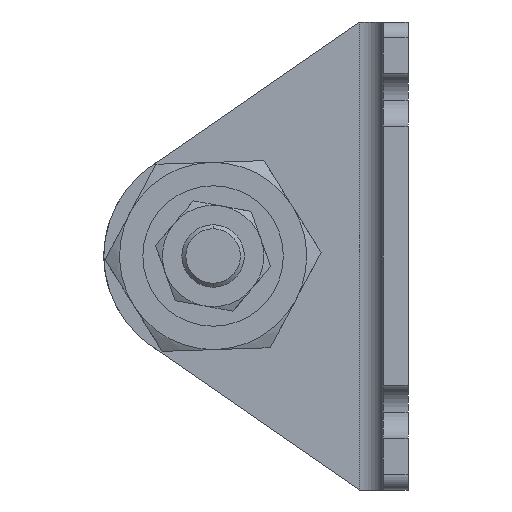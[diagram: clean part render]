
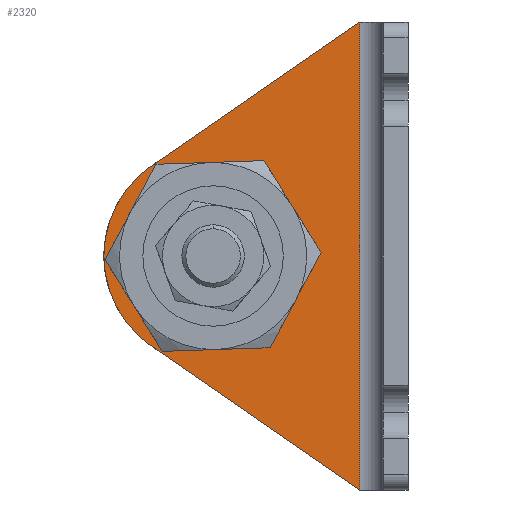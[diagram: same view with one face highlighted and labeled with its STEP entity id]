
A CAD part, left-side view. The second image highlights one B-rep face of the part: STEP entity #2320.
In plain terms, the highlighted planar face has unit normal (-1, 0, 0) as drawn and (1, 0, 0) by its records, which use the part's own axes.
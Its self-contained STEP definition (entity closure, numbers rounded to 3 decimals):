
#67 = CARTESIAN_POINT ( 'NONE',  ( 3.2, 39., -30. ) ) ;
#90 = VERTEX_POINT ( 'NONE', #3815 ) ;
#97 = DIRECTION ( 'NONE',  ( 1., 0., 0. ) ) ;
#206 = DIRECTION ( 'NONE',  ( 0., 1., 0. ) ) ;
#284 = LINE ( 'NONE', #3176, #2062 ) ;
#297 = DIRECTION ( 'NONE',  ( 0., 0.823, 0.568 ) ) ;
#392 = CARTESIAN_POINT ( 'NONE',  ( 3.2, 25., -30. ) ) ;
#440 = EDGE_CURVE ( 'NONE', #3388, #1788, #2147, .T. ) ;
#580 = LINE ( 'NONE', #2693, #879 ) ;
#589 = DIRECTION ( 'NONE',  ( 1., 0., 0. ) ) ;
#694 = EDGE_CURVE ( 'NONE', #1788, #3215, #3348, .T. ) ;
#697 = LINE ( 'NONE', #3914, #2595 ) ;
#723 = DIRECTION ( 'NONE',  ( 0., 0.823, -0.568 ) ) ;
#744 = CARTESIAN_POINT ( 'NONE',  ( 3.2, 6.2, -60. ) ) ;
#782 = ORIENTED_EDGE ( 'NONE', *, *, #1077, .F. ) ;
#831 = AXIS2_PLACEMENT_3D ( 'NONE', #392, #2770, #206 ) ;
#879 = VECTOR ( 'NONE', #723, 1000. ) ;
#897 = ORIENTED_EDGE ( 'NONE', *, *, #3693, .F. ) ;
#982 = EDGE_LOOP ( 'NONE', ( #782, #897 ) ) ;
#984 = AXIS2_PLACEMENT_3D ( 'NONE', #1701, #2347, #2367 ) ;
#1004 = CARTESIAN_POINT ( 'NONE',  ( 3.2, 3.2, -60. ) ) ;
#1071 = DIRECTION ( 'NONE',  ( 0., 1., 0. ) ) ;
#1077 = EDGE_CURVE ( 'NONE', #4042, #90, #2146, .T. ) ;
#1081 = CARTESIAN_POINT ( 'NONE',  ( 3.2, 34.5, -30. ) ) ;
#1205 = EDGE_CURVE ( 'NONE', #4108, #3388, #697, .T. ) ;
#1369 = DIRECTION ( 'NONE',  ( 0., 0., -1. ) ) ;
#1400 = EDGE_LOOP ( 'NONE', ( #1590, #1468, #3207, #2948, #2133 ) ) ;
#1468 = ORIENTED_EDGE ( 'NONE', *, *, #440, .T. ) ;
#1523 = DIRECTION ( 'NONE',  ( 0., 1., 0. ) ) ;
#1568 = CIRCLE ( 'NONE', #2386, 9.5 ) ;
#1590 = ORIENTED_EDGE ( 'NONE', *, *, #1205, .T. ) ;
#1701 = CARTESIAN_POINT ( 'NONE',  ( 3.2, 25., -30. ) ) ;
#1788 = VERTEX_POINT ( 'NONE', #67 ) ;
#1889 = CARTESIAN_POINT ( 'NONE',  ( 3.2, 6.2, 0. ) ) ;
#2062 = VECTOR ( 'NONE', #1369, 1000. ) ;
#2108 = AXIS2_PLACEMENT_3D ( 'NONE', #1004, #589, #1071 ) ;
#2133 = ORIENTED_EDGE ( 'NONE', *, *, #2980, .T. ) ;
#2146 = CIRCLE ( 'NONE', #3874, 9.5 ) ;
#2147 = CIRCLE ( 'NONE', #831, 14. ) ;
#2253 = CARTESIAN_POINT ( 'NONE',  ( 3.2, 25., -30. ) ) ;
#2283 = PLANE ( 'NONE',  #2108 ) ;
#2320 = ADVANCED_FACE ( 'NONE', ( #2353, #2702 ), #2283, .T. ) ;
#2347 = DIRECTION ( 'NONE',  ( 1., 0., 0. ) ) ;
#2353 = FACE_BOUND ( 'NONE', #982, .T. ) ;
#2367 = DIRECTION ( 'NONE',  ( 0., 1., 0. ) ) ;
#2386 = AXIS2_PLACEMENT_3D ( 'NONE', #2253, #2812, #1523 ) ;
#2449 = CARTESIAN_POINT ( 'NONE',  ( 3.2, 32.956, -41.519 ) ) ;
#2452 = DIRECTION ( 'NONE',  ( 0., 1., 0. ) ) ;
#2595 = VECTOR ( 'NONE', #297, 1000. ) ;
#2693 = CARTESIAN_POINT ( 'NONE',  ( 3.2, 32.226, -17.976 ) ) ;
#2702 = FACE_OUTER_BOUND ( 'NONE', #1400, .T. ) ;
#2770 = DIRECTION ( 'NONE',  ( 1., 0., 0. ) ) ;
#2812 = DIRECTION ( 'NONE',  ( 1., 0., 0. ) ) ;
#2948 = ORIENTED_EDGE ( 'NONE', *, *, #3805, .F. ) ;
#2980 = EDGE_CURVE ( 'NONE', #4131, #4108, #284, .T. ) ;
#3111 = CARTESIAN_POINT ( 'NONE',  ( 3.2, 32.956, -18.481 ) ) ;
#3176 = CARTESIAN_POINT ( 'NONE',  ( 3.2, 6.2, -60. ) ) ;
#3207 = ORIENTED_EDGE ( 'NONE', *, *, #694, .T. ) ;
#3215 = VERTEX_POINT ( 'NONE', #3111 ) ;
#3348 = CIRCLE ( 'NONE', #984, 14. ) ;
#3388 = VERTEX_POINT ( 'NONE', #2449 ) ;
#3693 = EDGE_CURVE ( 'NONE', #90, #4042, #1568, .T. ) ;
#3805 = EDGE_CURVE ( 'NONE', #4131, #3215, #580, .T. ) ;
#3815 = CARTESIAN_POINT ( 'NONE',  ( 3.2, 15.5, -30. ) ) ;
#3874 = AXIS2_PLACEMENT_3D ( 'NONE', #4112, #97, #2452 ) ;
#3914 = CARTESIAN_POINT ( 'NONE',  ( 3.2, 4.169, -61.403 ) ) ;
#4042 = VERTEX_POINT ( 'NONE', #1081 ) ;
#4108 = VERTEX_POINT ( 'NONE', #744 ) ;
#4112 = CARTESIAN_POINT ( 'NONE',  ( 3.2, 25., -30. ) ) ;
#4131 = VERTEX_POINT ( 'NONE', #1889 ) ;
